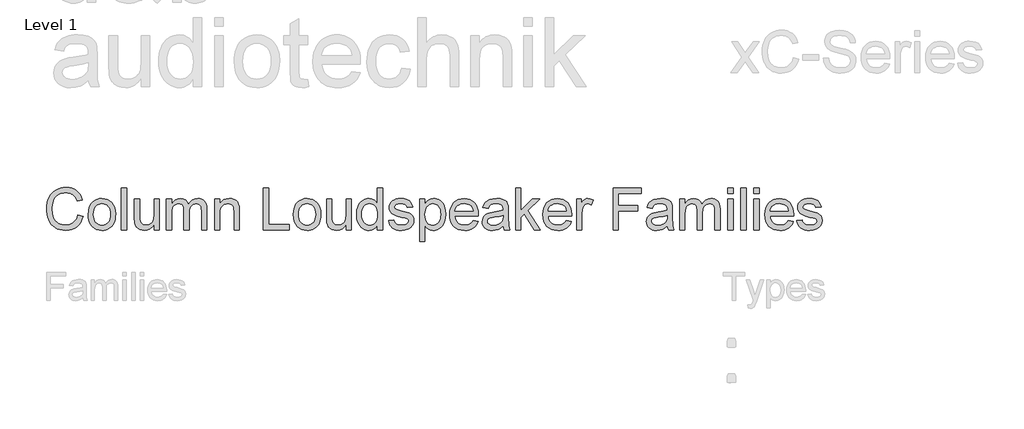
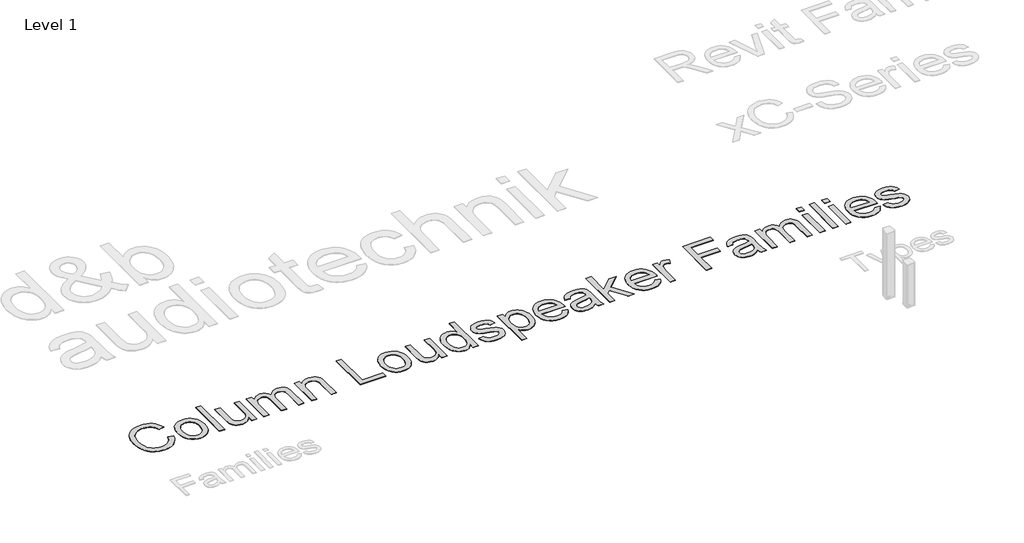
# One storey, part 6 of 8: 1 proxy.
"""IFC4 building model written with IfcOpenShell, lengths in millimetres."""

from ifc_helpers import new_model, si_unit, origin, origin_with_axes, place, context, project, spatial, polyline, outline, extrude, element, save

model = new_model("IFC4")

# Units and contexts
model_context = context("Model", 3, world=origin())
ifc_project = project(units=[si_unit("LENGTHUNIT", "METRE", prefix="MILLI")], contexts=[model_context])

# Site, building, storey
site = spatial("IfcSite", under=ifc_project)
building = spatial("IfcBuilding", under=site)
storey = spatial("IfcBuildingStorey", under=building, Name="Level 1", Elevation=0.0)

# Proxy
placement = place(None, origin())
element("IfcBuildingElementProxy", 1, Name="600mm Arial", ObjectType="600mm Arial", at=placement, inside=storey, context=model_context, shape_type="SweptSolid", body=[
    extrude(outline(polyline([(-20619.5693759, 18561.3054836), (-20545.723222, 18542.267022), (-20560.3356018, 18496.3430437), (-20579.7977413, 18456.2153393), (-20604.1096403, 18421.8839091), (-20633.271299, 18393.3487528), (-20666.6246643, 18370.916361), (-20703.5116836, 18354.893224), (-20743.9323567, 18345.2793417), (-20787.8866836, 18342.0747143), (-20832.9182341, 18344.4995941), (-20873.5417317, 18351.7742336), (-20909.7571764, 18363.8986326), (-20941.5645682, 18380.8727913), (-20969.4011067, 18402.4443057), (-20993.7039913, 18428.360772), (-21014.473222, 18458.6221903), (-21031.708799, 18493.2285605), (-21045.2439552, 18530.6834884), (-21054.911924, 18569.4905797), (-21060.7127052, 18609.6498345), (-21062.646299, 18651.1612528), (-21060.4603014, 18695.7015172), (-21053.9023086, 18737.3030797), (-21042.9723206, 18775.9659403), (-21027.6703374, 18811.690099), (-21008.3389071, 18843.885111), (-20985.3205778, 18871.9605316), (-20958.6153494, 18895.916361), (-20928.223222, 18915.752599), (-20895.176347, 18931.306986), (-20860.5068759, 18942.4172624), (-20824.2148086, 18949.0834283), (-20786.3001451, 18951.3054836), (-20744.0630658, 18948.4298826), (-20705.332597, 18939.8030797), (-20670.1087389, 18925.4250749), (-20638.3914913, 18905.2958682), (-20610.7036908, 18879.9473105), (-20587.568174, 18849.9112528), (-20568.9849408, 18815.1876951), (-20554.9539913, 18775.7766374), (-20628.8001451, 18758.1804836), (-20640.4287509, 18787.2204475), (-20654.4011067, 18812.032647), (-20670.7172124, 18832.6170821), (-20689.3770682, 18848.9737528), (-20710.488847, 18861.4361927), (-20734.160722, 18870.3379355), (-20760.3926932, 18875.6789812), (-20789.1847605, 18877.4593297), (-20822.3127653, 18875.4851711), (-20852.6102413, 18869.5626951), (-20880.0771884, 18859.6919018), (-20904.7136067, 18845.8727913), (-20926.2084985, 18828.7273586), (-20944.2508663, 18808.877599), (-20958.84071, 18786.3235124), (-20969.9780297, 18761.065099), (-20984.0946163, 18707.0146182), (-20988.8001451, 18651.3054836), (-20983.2292317, 18583.0843297), (-20976.2655898, 18552.4352913), (-20966.5164913, 18524.0939451), (-20953.8241836, 18498.6236927), (-20938.0309143, 18476.5879355), (-20919.1366836, 18457.9866735), (-20897.1414913, 18442.8199066), (-20873.1135466, 18431.0515773), (-20848.1210586, 18422.6456278), (-20822.1640273, 18417.6020581), (-20795.2424528, 18415.9208682), (-20763.137585, 18418.2105316), (-20733.6018278, 18425.079522), (-20706.6351812, 18436.5278393), (-20682.2376451, 18452.5554836), (-20660.9861427, 18473.0903393), (-20643.457597, 18498.0602913), (-20629.6520081, 18527.4653393), (-20619.5693759, 18561.3054836)])), origin_with_axes(), (0.0, 0.0, 1.0), 5.0),
    extrude(outline(polyline([(-20471.8770682, 18568.2285605), (-20467.8836788, 18624.4154595), (-20455.9035105, 18672.8319259), (-20435.9365634, 18713.4779595), (-20407.9828374, 18746.3535605), (-20379.8398086, 18767.3661807), (-20348.7761067, 18782.3751951), (-20314.7917317, 18791.3806038), (-20277.8866836, 18794.3824066), (-20237.1459985, 18790.7270581), (-20200.3085586, 18779.7610124), (-20167.3743639, 18761.4842696), (-20138.3434143, 18735.8968297), (-20114.6490033, 18703.8640773), (-20097.724424, 18666.251397), (-20087.5696764, 18623.0587889), (-20084.1847605, 18574.2862528), (-20085.6811547, 18534.7580076), (-20090.1703374, 18499.6828874), (-20097.6523086, 18469.0608922), (-20108.1270682, 18442.892022), (-20121.4639071, 18420.2883562), (-20137.5321163, 18400.361974), (-20156.3316956, 18383.1128754), (-20177.8626451, 18368.5410605), (-20201.2866235, 18356.9620341), (-20225.7652893, 18348.6913009), (-20251.2986427, 18343.728861), (-20277.8866836, 18342.0747143), (-20319.2223206, 18345.7165413), (-20356.4023086, 18356.642022), (-20389.4266475, 18374.8511566), (-20418.2953374, 18400.3439451), (-20441.7373446, 18432.6876951), (-20458.4816355, 18471.4497143), (-20468.52821, 18516.6300028), (-20471.8770682, 18568.2285605)]), holes=[polyline([(-20398.0309143, 18568.3727913), (-20395.8944961, 18532.5539812), (-20389.4852413, 18501.5398586), (-20378.8031499, 18475.3304235), (-20363.848222, 18453.9256759), (-20345.6571163, 18437.2985725), (-20325.2664913, 18425.4220701), (-20302.676347, 18418.2961687), (-20277.8866836, 18415.9208682), (-20253.223222, 18418.3096903), (-20230.723222, 18425.4761566), (-20210.3866836, 18437.4202672), (-20192.2136067, 18454.142022), (-20177.2586788, 18475.7586086), (-20166.5765874, 18502.3872143), (-20160.1673326, 18534.0278393), (-20158.0309143, 18570.6804836), (-20160.1808542, 18605.3634764), (-20166.630674, 18635.5663009), (-20177.3803735, 18661.2889571), (-20192.4299528, 18682.5314451), (-20210.6706379, 18699.1585485), (-20230.9936547, 18711.0350509), (-20253.3990033, 18718.1609523), (-20277.8866836, 18720.5362528), (-20302.676347, 18718.1699667), (-20325.2664913, 18711.0711086), (-20345.6571163, 18699.2396783), (-20363.848222, 18682.6756759), (-20378.8031499, 18661.3340292), (-20389.4852413, 18635.1696663), (-20395.8944961, 18604.1825869), (-20398.0309143, 18568.3727913)])]), origin_with_axes(), (0.0, 0.0, 1.0), 5.0),
    extrude(outline(polyline([(-20001.1078374, 18351.3054836), (-20001.1078374, 18942.0747143), (-19927.2616836, 18942.0747143), (-19927.2616836, 18351.3054836), (-20001.1078374, 18351.3054836)])), origin_with_axes(), (0.0, 0.0, 1.0), 5.0),
    extrude(outline(polyline([(-19539.5693759, 18351.3054836), (-19539.5693759, 18425.8727913), (-19566.2881259, 18389.2111326), (-19597.4059143, 18363.0242336), (-19632.9227413, 18347.3120941), (-19672.8386067, 18342.0747143), (-19708.8061547, 18345.752599), (-19742.285722, 18356.7862528), (-19770.3746643, 18373.3727913), (-19790.1703374, 18393.7093297), (-19803.4936547, 18418.408849), (-19812.1655297, 18448.0843297), (-19816.4924528, 18516.7381759), (-19816.4924528, 18785.1516374), (-19742.646299, 18785.1516374), (-19742.646299, 18551.4977913), (-19741.5285105, 18504.767022), (-19738.1751451, 18476.2093297), (-19727.411924, 18451.095147), (-19708.9684143, 18432.002599), (-19684.0705778, 18419.9413009), (-19653.9443759, 18415.9208682), (-19622.0874047, 18420.0314451), (-19592.285722, 18432.3631759), (-19567.7124047, 18451.7802432), (-19551.5405297, 18477.1468297), (-19542.5621643, 18511.8884163), (-19539.5693759, 18559.4304836), (-19539.5693759, 18785.1516374), (-19465.723222, 18785.1516374), (-19465.723222, 18351.3054836), (-19539.5693759, 18351.3054836)])), origin_with_axes(), (0.0, 0.0, 1.0), 5.0),
    extrude(outline(polyline([(-19364.1847605, 18351.3054836), (-19364.1847605, 18785.1516374), (-19290.3386067, 18785.1516374), (-19290.3386067, 18713.7574066), (-19268.1270682, 18746.5518778), (-19239.5693759, 18772.2429836), (-19205.6390874, 18788.8475509), (-19167.3097605, 18794.3824066), (-19126.240049, 18788.7393778), (-19108.7610826, 18781.6855917), (-19093.3193759, 18771.8102913), (-19068.7280297, 18744.7129355), (-19052.646299, 18708.565099), (-19025.7292317, 18746.1101711), (-18995.0261067, 18772.9280797), (-18960.536924, 18789.0188249), (-18922.2616836, 18794.3824066), (-18892.6988831, 18792.1513369), (-18866.7508663, 18785.4581278), (-18844.4176331, 18774.3027792), (-18825.6991836, 18758.6852913), (-18810.9020081, 18738.4253754), (-18800.332597, 18713.3427432), (-18793.9909504, 18683.4373946), (-18791.8770682, 18648.7093297), (-18791.8770682, 18351.3054836), (-18865.723222, 18351.3054836), (-18865.723222, 18616.9785605), (-18867.4359624, 18653.8114932), (-18872.5741836, 18678.6372143), (-18882.2015874, 18695.6384163), (-18897.3818759, 18708.9977913), (-18916.9071163, 18717.6516374), (-18939.5693759, 18720.5362528), (-18960.4963591, 18718.6882961), (-18979.5753855, 18713.1444259), (-18996.8064552, 18703.9046422), (-19012.1895682, 18690.9689451), (-19024.841311, 18673.9587288), (-19033.8782701, 18652.4953874), (-19039.3004456, 18626.5789211), (-19041.1078374, 18596.2093297), (-19041.1078374, 18351.3054836), (-19114.9539913, 18351.3054836), (-19114.9539913, 18625.1997143), (-19119.2268278, 18666.954522), (-19132.0453374, 18696.7381759), (-19141.9566956, 18707.1498345), (-19154.599424, 18714.5867336), (-19169.9735225, 18719.048873), (-19188.0789913, 18720.5362528), (-19216.5285105, 18716.5699066), (-19242.7424528, 18704.6708682), (-19264.3770682, 18685.127599), (-19279.0886067, 18658.2285605), (-19287.5261067, 18620.908849), (-19290.3386067, 18570.1035605), (-19290.3386067, 18351.3054836), (-19364.1847605, 18351.3054836)])), origin_with_axes(), (0.0, 0.0, 1.0), 5.0),
    extrude(outline(polyline([(-18681.1078374, 18351.3054836), (-18681.1078374, 18785.1516374), (-18607.2616836, 18785.1516374), (-18607.2616836, 18724.5747143), (-18581.6066355, 18755.1155797), (-18550.7953374, 18776.9304836), (-18514.8277893, 18790.0194259), (-18473.7039913, 18794.3824066), (-18437.3037509, 18790.8667816), (-18403.9684143, 18780.3199066), (-18376.1679336, 18764.0578874), (-18356.3722605, 18743.3968297), (-18342.9407701, 18718.3908201), (-18334.2328374, 18689.0939451), (-18330.3386067, 18617.6997143), (-18330.3386067, 18351.3054836), (-18404.1847605, 18351.3054836), (-18404.1847605, 18607.7477913), (-18406.3121643, 18645.9328874), (-18412.6943759, 18673.0843297), (-18424.4672124, 18692.5374547), (-18442.7664913, 18707.627599), (-18466.2220201, 18717.3090893), (-18493.4636067, 18720.5362528), (-18515.8869841, 18718.7243538), (-18536.7148086, 18713.2886566), (-18555.9470802, 18704.2291615), (-18573.583799, 18691.5458682), (-18588.3178735, 18673.7964691), (-18598.8422124, 18649.5386566), (-18605.1568158, 18618.7724307), (-18607.2616836, 18581.4977913), (-18607.2616836, 18351.3054836), (-18681.1078374, 18351.3054836)])), origin_with_axes(), (0.0, 0.0, 1.0), 5.0),
    extrude(outline(polyline([(-17988.8001451, 18351.3054836), (-17988.8001451, 18942.0747143), (-17914.9539913, 18942.0747143), (-17914.9539913, 18425.1516374), (-17619.5693759, 18425.1516374), (-17619.5693759, 18351.3054836), (-17988.8001451, 18351.3054836)])), origin_with_axes(), (0.0, 0.0, 1.0), 5.0),
    extrude(outline(polyline([(-17564.1847605, 18568.2285605), (-17560.1913711, 18624.4154595), (-17548.2112028, 18672.8319259), (-17528.2442557, 18713.4779595), (-17500.2905297, 18746.3535605), (-17472.1475009, 18767.3661807), (-17441.083799, 18782.3751951), (-17407.099424, 18791.3806038), (-17370.1943759, 18794.3824066), (-17329.4536908, 18790.7270581), (-17292.6162509, 18779.7610124), (-17259.6820562, 18761.4842696), (-17230.6511067, 18735.8968297), (-17206.9566956, 18703.8640773), (-17190.0321163, 18666.251397), (-17179.8773687, 18623.0587889), (-17176.4924528, 18574.2862528), (-17177.988847, 18534.7580076), (-17182.4780297, 18499.6828874), (-17189.9600009, 18469.0608922), (-17200.4347605, 18442.892022), (-17213.7715994, 18420.2883562), (-17229.8398086, 18400.361974), (-17248.6393879, 18383.1128754), (-17270.1703374, 18368.5410605), (-17293.5943158, 18356.9620341), (-17318.0729817, 18348.6913009), (-17343.606335, 18343.728861), (-17370.1943759, 18342.0747143), (-17411.5300129, 18345.7165413), (-17448.7100009, 18356.642022), (-17481.7343398, 18374.8511566), (-17510.6030297, 18400.3439451), (-17534.0450369, 18432.6876951), (-17550.7893278, 18471.4497143), (-17560.8359023, 18516.6300028), (-17564.1847605, 18568.2285605)]), holes=[polyline([(-17490.3386067, 18568.3727913), (-17488.2021884, 18532.5539812), (-17481.7929336, 18501.5398586), (-17471.1108422, 18475.3304235), (-17456.1559143, 18453.9256759), (-17437.9648086, 18437.2985725), (-17417.5741836, 18425.4220701), (-17394.9840393, 18418.2961687), (-17370.1943759, 18415.9208682), (-17345.5309143, 18418.3096903), (-17323.0309143, 18425.4761566), (-17302.6943759, 18437.4202672), (-17284.521299, 18454.142022), (-17269.5663711, 18475.7586086), (-17258.8842797, 18502.3872143), (-17252.4750249, 18534.0278393), (-17250.3386067, 18570.6804836), (-17252.4885466, 18605.3634764), (-17258.9383663, 18635.5663009), (-17269.6880658, 18661.2889571), (-17284.7376451, 18682.5314451), (-17302.9783302, 18699.1585485), (-17323.301347, 18711.0350509), (-17345.7066956, 18718.1609523), (-17370.1943759, 18720.5362528), (-17394.9840393, 18718.1699667), (-17417.5741836, 18711.0711086), (-17437.9648086, 18699.2396783), (-17456.1559143, 18682.6756759), (-17471.1108422, 18661.3340292), (-17481.7929336, 18635.1696663), (-17488.2021884, 18604.1825869), (-17490.3386067, 18568.3727913)])]), origin_with_axes(), (0.0, 0.0, 1.0), 5.0),
    extrude(outline(polyline([(-16816.4924528, 18351.3054836), (-16816.4924528, 18425.8727913), (-16843.2112028, 18389.2111326), (-16874.3289913, 18363.0242336), (-16909.8458182, 18347.3120941), (-16949.7616836, 18342.0747143), (-16985.7292317, 18345.752599), (-17019.208799, 18356.7862528), (-17047.2977413, 18373.3727913), (-17067.0934143, 18393.7093297), (-17080.4167317, 18418.408849), (-17089.0886067, 18448.0843297), (-17093.4155297, 18516.7381759), (-17093.4155297, 18785.1516374), (-17019.5693759, 18785.1516374), (-17019.5693759, 18551.4977913), (-17018.4515874, 18504.767022), (-17015.098222, 18476.2093297), (-17004.3350009, 18451.095147), (-16985.8914913, 18432.002599), (-16960.9936547, 18419.9413009), (-16930.8674528, 18415.9208682), (-16899.0104817, 18420.0314451), (-16869.208799, 18432.3631759), (-16844.6354817, 18451.7802432), (-16828.4636067, 18477.1468297), (-16819.4852413, 18511.8884163), (-16816.4924528, 18559.4304836), (-16816.4924528, 18785.1516374), (-16742.646299, 18785.1516374), (-16742.646299, 18351.3054836), (-16816.4924528, 18351.3054836)])), origin_with_axes(), (0.0, 0.0, 1.0), 5.0),
    extrude(outline(polyline([(-16373.4155297, 18351.3054836), (-16373.4155297, 18420.9689451), (-16395.5098807, 18386.4527191), (-16422.2737028, 18361.798272), (-16453.7069961, 18347.0056038), (-16489.8097605, 18342.0747143), (-16514.1847605, 18343.8595701), (-16537.5501451, 18349.2141374), (-16559.9059143, 18358.1384163), (-16581.2520682, 18370.6324066), (-16600.9215393, 18386.32201), (-16618.2472605, 18404.8331278), (-16633.2292317, 18426.16576), (-16645.8674528, 18450.3199066), (-16655.9005057, 18476.8358321), (-16663.066972, 18505.2538009), (-16668.8001451, 18567.7958682), (-16663.5176932, 18629.5626951), (-16647.6703374, 18685.3439451), (-16635.7893278, 18710.1967095), (-16621.2761067, 18731.9665413), (-16604.130674, 18750.6534403), (-16584.3530297, 18766.2574066), (-16562.6417917, 18778.5620941), (-16539.6955778, 18787.3511566), (-16515.5143879, 18792.6245941), (-16490.098222, 18794.3824066), (-16453.9684143, 18789.3523586), (-16422.021299, 18774.2622143), (-16394.941972, 18751.1312047), (-16373.4155297, 18721.9785605), (-16373.4155297, 18942.0747143), (-16299.5693759, 18942.0747143), (-16299.5693759, 18351.3054836), (-16373.4155297, 18351.3054836)]), holes=[polyline([(-16594.9539913, 18568.0843297), (-16592.8716595, 18532.2745341), (-16586.6246643, 18501.2874547), (-16576.2130057, 18475.1230917), (-16561.6366836, 18453.7814451), (-16544.2298326, 18437.2174427), (-16525.3265874, 18425.3860124), (-16504.926948, 18418.2871542), (-16483.0309143, 18415.9208682), (-16461.0312148, 18418.1789812), (-16440.7532701, 18424.9533201), (-16422.1970802, 18436.243885), (-16405.3626451, 18452.0506759), (-16391.3857821, 18472.4998946), (-16381.4023086, 18497.7177432), (-16375.4122244, 18527.7042216), (-16373.4155297, 18562.4593297), (-16375.4482821, 18600.5632961), (-16381.5465393, 18633.2405797), (-16391.7103014, 18660.4911807), (-16405.9395682, 18682.315099), (-16423.1435946, 18699.0368538), (-16442.2316355, 18710.9809643), (-16463.2036908, 18718.1474307), (-16486.0597605, 18720.5362528), (-16508.3884865, 18718.2420821), (-16528.7881259, 18711.3595701), (-16547.2586788, 18699.8887167), (-16563.8001451, 18683.829522), (-16577.4299528, 18662.8304235), (-16587.1655297, 18636.5398586), (-16593.0068759, 18604.9578273), (-16594.9539913, 18568.0843297)])]), origin_with_axes(), (0.0, 0.0, 1.0), 5.0),
    extrude(outline(polyline([(-16216.4924528, 18480.5362528), (-16142.646299, 18489.767022), (-16138.1841595, 18472.9280797), (-16130.9996643, 18458.1804836), (-16121.0928134, 18445.5242336), (-16108.4636067, 18434.9593297), (-16093.0759865, 18426.6300028), (-16074.8938951, 18420.6804836), (-16030.146299, 18415.9208682), (-15985.9395682, 18420.283849), (-15968.7580778, 18425.7375749), (-15954.8578374, 18433.3727913), (-15936.4684143, 18452.3391374), (-15930.3386067, 18474.3343297), (-15931.880073, 18484.3042816), (-15936.504472, 18493.1564451), (-15955.0020682, 18507.5074066), (-15982.6583182, 18516.8824066), (-16031.0116836, 18528.565099), (-16098.4035105, 18548.0542816), (-16142.2136067, 18564.6949066), (-16170.3566355, 18582.8499547), (-16190.7472605, 18606.8824066), (-16203.1330778, 18635.2598105), (-16207.2616836, 18666.4497143), (-16203.9443759, 18695.0614932), (-16193.9924528, 18721.4737528), (-16178.3073567, 18744.6408201), (-16157.7905297, 18763.517022), (-16137.3999047, 18775.3980316), (-16110.8434143, 18785.3679836), (-16080.1402893, 18792.1288009), (-16047.3097605, 18794.3824066), (-15999.2448567, 18790.7586086), (-15957.4539913, 18779.8872143), (-15923.848222, 18762.8319259), (-15900.3386067, 18740.6564451), (-15884.7616836, 18711.720147), (-15874.9539913, 18674.3824066), (-15948.8001451, 18665.1516374), (-15958.1210586, 18688.3908201), (-15976.5645682, 18705.8968297), (-16004.3109624, 18716.876397), (-16041.5405297, 18720.5362528), (-16083.9443759, 18717.0386566), (-16112.2136067, 18706.5458682), (-16128.115049, 18691.4016374), (-16133.4155297, 18673.9497143), (-16131.2160105, 18662.5915413), (-16124.6174528, 18652.4593297), (-16113.3313951, 18643.408849), (-16097.0693759, 18636.1612528), (-16033.4636067, 18620.440099), (-15925.0741836, 18585.6804836), (-15896.4443759, 18569.0578874), (-15874.7376451, 18546.3054836), (-15861.0537509, 18517.3511566), (-15856.4924528, 18482.1227913), (-15861.8470201, 18445.704522), (-15877.910722, 18411.4497143), (-15904.0705778, 18382.0446663), (-15939.7136067, 18360.1756759), (-15982.7664913, 18346.5999547), (-16031.1559143, 18342.0747143), (-16070.9005057, 18344.2562047), (-16105.615049, 18350.8006759), (-16135.2995442, 18361.7081278), (-16159.9539913, 18376.9785605), (-16180.0922124, 18396.5398586), (-16196.2280297, 18420.3199066), (-16208.3614432, 18448.3187047), (-16216.4924528, 18480.5362528)])), origin_with_axes(), (0.0, 0.0, 1.0), 5.0),
    extrude(outline(polyline([(-15773.4155297, 18185.1516374), (-15773.4155297, 18785.1516374), (-15699.5693759, 18785.1516374), (-15699.5693759, 18712.7477913), (-15675.4828374, 18748.4629355), (-15648.5116836, 18773.9737528), (-15617.0693759, 18789.2802432), (-15579.5693759, 18794.3824066), (-15553.8151692, 18792.5975509), (-15529.629472, 18787.2429836), (-15507.0122845, 18778.3187047), (-15485.9636067, 18765.8247143), (-15466.943174, 18750.0855316), (-15450.410722, 18731.4256759), (-15436.3662509, 18709.845147), (-15424.8097605, 18685.3439451), (-15409.3410105, 18630.9328874), (-15404.1847605, 18571.5458682), (-15410.0080778, 18508.3908201), (-15417.2872244, 18479.3147985), (-15427.4780297, 18451.9064451), (-15440.4407701, 18426.8824066), (-15456.035722, 18404.9593297), (-15474.2628855, 18386.1372143), (-15495.1222605, 18370.4160605), (-15517.59071, 18358.0167216), (-15540.645097, 18349.1600509), (-15564.2854216, 18343.8460485), (-15588.5116836, 18342.0747143), (-15622.4600009, 18346.8163009), (-15652.7664913, 18361.0410605), (-15678.7100009, 18382.5134163), (-15699.5693759, 18408.9977913), (-15699.5693759, 18185.1516374), (-15773.4155297, 18185.1516374)]), holes=[polyline([(-15699.5693759, 18564.767022), (-15697.5726812, 18529.1780797), (-15691.582597, 18498.565099), (-15681.5991235, 18472.9280797), (-15667.6222605, 18452.267022), (-15650.7968398, 18436.3655797), (-15632.2676932, 18425.0074066), (-15612.0348206, 18418.1925028), (-15590.098222, 18415.9208682), (-15567.8461187, 18418.2736326), (-15547.2436547, 18425.3319259), (-15528.2908302, 18437.095748), (-15510.9876451, 18453.565099), (-15496.5690754, 18474.9743538), (-15486.270097, 18501.5578874), (-15480.09071, 18533.3156999), (-15478.0309143, 18570.2477913), (-15480.0411307, 18605.5302432), (-15486.0717797, 18636.0891374), (-15496.1228615, 18661.924474), (-15510.1943759, 18683.0362528), (-15527.0603615, 18699.4425028), (-15545.4948567, 18711.1612528), (-15565.4978615, 18718.1925028), (-15587.0693759, 18720.5362528), (-15608.5732821, 18718.0437648), (-15628.8061547, 18710.5663009), (-15647.7679937, 18698.103861), (-15665.458799, 18680.6564451), (-15680.3821764, 18658.4584283), (-15691.0417317, 18631.7441855), (-15697.4374648, 18600.5137167), (-15699.5693759, 18564.767022)])]), origin_with_axes(), (0.0, 0.0, 1.0), 5.0),
    extrude(outline(polyline([(-15017.3578374, 18480.5362528), (-14944.9539913, 18471.3054836), (-14956.0552533, 18442.3060845), (-14971.0417317, 18416.7501951), (-14989.9134264, 18394.6378153), (-15012.6703374, 18375.9689451), (-15039.0780898, 18361.1402191), (-15068.9023086, 18350.548272), (-15102.1429937, 18344.1931038), (-15138.8001451, 18342.0747143), (-15184.6204576, 18345.7300629), (-15225.4467797, 18356.6961086), (-15261.2791115, 18374.9728514), (-15292.1174528, 18400.5602913), (-15316.9161307, 18432.7462889), (-15334.629472, 18470.8187047), (-15345.2574768, 18514.7775389), (-15348.8001451, 18564.6227913), (-15345.2214192, 18616.158248), (-15334.4852413, 18661.5819259), (-15316.5916115, 18700.8938249), (-15291.5405297, 18734.0939451), (-15260.7833182, 18760.470147), (-15225.771299, 18779.3102913), (-15186.504472, 18790.6143778), (-15142.9828374, 18794.3824066), (-15100.8629456, 18790.6233922), (-15062.7725009, 18779.346349), (-15028.7115033, 18760.5512768), (-14998.6799528, 18734.2381759), (-14974.1652292, 18701.1101711), (-14956.6547124, 18661.8703874), (-14946.1484023, 18616.5188249), (-14942.646299, 18565.0554836), (-14943.0789913, 18545.1516374), (-15274.9539913, 18545.1516374), (-15270.6766475, 18515.6834884), (-15262.1715393, 18489.8751951), (-15249.4386667, 18467.7267576), (-15232.4780297, 18449.2381759), (-15212.2271283, 18434.6618538), (-15189.6234624, 18424.2501951), (-15164.6670321, 18418.0031999), (-15137.3578374, 18415.9208682), (-15098.0549528, 18419.7790413), (-15064.9539913, 18431.3535605), (-15038.0549528, 18451.3655797), (-15017.3578374, 18480.5362528)]), holes=[polyline([(-15274.9539913, 18618.9977913), (-15016.4924528, 18618.9977913), (-15026.4804336, 18658.0122143), (-15035.0711788, 18673.3547624), (-15046.0597605, 18685.9208682), (-15066.1979817, 18701.065099), (-15089.1126451, 18711.8824066), (-15114.8037509, 18718.3727913), (-15143.271299, 18720.5362528), (-15169.2373446, 18718.8099908), (-15193.0489432, 18713.6312047), (-15214.7060946, 18704.9998946), (-15234.208799, 18692.9160605), (-15250.5744841, 18677.9385966), (-15262.8205778, 18660.626397), (-15270.9470802, 18640.9794619), (-15274.9539913, 18618.9977913)])]), origin_with_axes(), (0.0, 0.0, 1.0), 5.0),
    extrude(outline(polyline([(-14591.8770682, 18406.690099), (-14627.1595201, 18376.4376951), (-14663.4876451, 18356.642022), (-14701.6907701, 18345.7165413), (-14742.598222, 18342.0747143), (-14775.4783302, 18344.2652191), (-14804.3109624, 18350.8367336), (-14829.0961187, 18361.7892576), (-14849.833799, 18377.1227913), (-14866.2084985, 18395.8637768), (-14877.9047124, 18417.0386566), (-14884.9224408, 18440.6474307), (-14887.2616836, 18466.690099), (-14883.7280297, 18497.3030797), (-14873.1270682, 18525.1035605), (-14856.7749047, 18548.9016374), (-14835.9876451, 18567.5074066), (-14811.5585586, 18581.5699066), (-14784.2809143, 18591.7381759), (-14720.3866836, 18602.8439451), (-14644.8818759, 18614.5266374), (-14592.3097605, 18628.2285605), (-14591.8770682, 18644.6708682), (-14596.9612028, 18677.627599), (-14603.3163711, 18689.8331278), (-14612.2136067, 18699.190099), (-14627.5922124, 18708.5290413), (-14646.3241836, 18715.1997143), (-14693.848222, 18720.5362528), (-14737.8386067, 18716.9845701), (-14768.5597605, 18706.329522), (-14789.5092797, 18686.6239932), (-14804.1847605, 18655.9208682), (-14878.0309143, 18665.1516374), (-14865.2124047, 18705.5362528), (-14846.083799, 18737.267022), (-14818.8602413, 18761.533849), (-14781.7568759, 18779.5266374), (-14736.3782701, 18790.6684643), (-14684.3289913, 18794.3824066), (-14634.4071163, 18791.1011566), (-14594.833799, 18781.2574066), (-14564.9960586, 18766.455724), (-14544.2809143, 18748.3006759), (-14530.5429336, 18725.8547624), (-14521.6366836, 18698.1804836), (-14518.0309143, 18633.565099), (-14518.0309143, 18541.690099), (-14514.2809143, 18413.3968297), (-14508.7280297, 18381.6840893), (-14499.5693759, 18351.3054836), (-14573.4155297, 18351.3054836), (-14585.2424528, 18376.9785605), (-14591.8770682, 18406.690099)]), holes=[polyline([(-14591.8770682, 18554.3824066), (-14641.4924528, 18542.0867336), (-14711.0116836, 18531.7381759), (-14774.5453374, 18519.767022), (-14791.0777893, 18511.5819259), (-14803.3193759, 18500.2958682), (-14810.8914913, 18486.7742336), (-14813.4155297, 18471.8824066), (-14807.9167317, 18449.923272), (-14791.4203374, 18431.9304836), (-14764.286924, 18419.923272), (-14726.8770682, 18415.9208682), (-14687.2136067, 18420.3379355), (-14652.1655297, 18433.5891374), (-14623.7520682, 18453.1143778), (-14603.9924528, 18476.3535605), (-14595.2304336, 18500.2958682), (-14592.3097605, 18533.4689451), (-14591.8770682, 18554.3824066)])]), origin_with_axes(), (0.0, 0.0, 1.0), 5.0),
    extrude(outline(polyline([(-14416.4924528, 18351.3054836), (-14416.4924528, 18942.0747143), (-14342.646299, 18942.0747143), (-14342.646299, 18624.6227913), (-14177.0693759, 18785.1516374), (-14074.9539913, 18785.1516374), (-14242.5501451, 18622.6035605), (-14065.723222, 18351.3054836), (-14151.973222, 18351.3054836), (-14295.4828374, 18571.2574066), (-14342.646299, 18525.5362528), (-14342.646299, 18351.3054836), (-14416.4924528, 18351.3054836)])), origin_with_axes(), (0.0, 0.0, 1.0), 5.0),
    extrude(outline(polyline([(-13697.3578374, 18480.5362528), (-13624.9539913, 18471.3054836), (-13636.0552533, 18442.3060845), (-13651.0417317, 18416.7501951), (-13669.9134264, 18394.6378153), (-13692.6703374, 18375.9689451), (-13719.0780898, 18361.1402191), (-13748.9023086, 18350.548272), (-13782.1429937, 18344.1931038), (-13818.8001451, 18342.0747143), (-13864.6204576, 18345.7300629), (-13905.4467797, 18356.6961086), (-13941.2791115, 18374.9728514), (-13972.1174528, 18400.5602913), (-13996.9161307, 18432.7462889), (-14014.629472, 18470.8187047), (-14025.2574768, 18514.7775389), (-14028.8001451, 18564.6227913), (-14025.2214192, 18616.158248), (-14014.4852413, 18661.5819259), (-13996.5916115, 18700.8938249), (-13971.5405297, 18734.0939451), (-13940.7833182, 18760.470147), (-13905.771299, 18779.3102913), (-13866.504472, 18790.6143778), (-13822.9828374, 18794.3824066), (-13780.8629456, 18790.6233922), (-13742.7725009, 18779.346349), (-13708.7115033, 18760.5512768), (-13678.6799528, 18734.2381759), (-13654.1652292, 18701.1101711), (-13636.6547124, 18661.8703874), (-13626.1484023, 18616.5188249), (-13622.646299, 18565.0554836), (-13623.0789913, 18545.1516374), (-13954.9539913, 18545.1516374), (-13950.6766475, 18515.6834884), (-13942.1715393, 18489.8751951), (-13929.4386667, 18467.7267576), (-13912.4780297, 18449.2381759), (-13892.2271283, 18434.6618538), (-13869.6234624, 18424.2501951), (-13844.6670321, 18418.0031999), (-13817.3578374, 18415.9208682), (-13778.0549528, 18419.7790413), (-13744.9539913, 18431.3535605), (-13718.0549528, 18451.3655797), (-13697.3578374, 18480.5362528)]), holes=[polyline([(-13954.9539913, 18618.9977913), (-13696.4924528, 18618.9977913), (-13706.4804336, 18658.0122143), (-13715.0711788, 18673.3547624), (-13726.0597605, 18685.9208682), (-13746.1979817, 18701.065099), (-13769.1126451, 18711.8824066), (-13794.8037509, 18718.3727913), (-13823.271299, 18720.5362528), (-13849.2373446, 18718.8099908), (-13873.0489432, 18713.6312047), (-13894.7060946, 18704.9998946), (-13914.208799, 18692.9160605), (-13930.5744841, 18677.9385966), (-13942.8205778, 18660.626397), (-13950.9470802, 18640.9794619), (-13954.9539913, 18618.9977913)])]), origin_with_axes(), (0.0, 0.0, 1.0), 5.0),
    extrude(outline(polyline([(-13548.8001451, 18351.3054836), (-13548.8001451, 18785.1516374), (-13484.1847605, 18785.1516374), (-13484.1847605, 18720.9689451), (-13460.3145682, 18758.1804836), (-13438.3193759, 18780.1035605), (-13416.2520682, 18790.8126951), (-13392.1655297, 18794.3824066), (-13355.3866836, 18788.6852913), (-13318.0309143, 18771.5939451), (-13342.6943759, 18705.392022), (-13368.6559143, 18716.7501951), (-13394.6174528, 18720.5362528), (-13416.6667317, 18716.8944259), (-13436.3722605, 18705.9689451), (-13452.2917317, 18688.5891374), (-13462.9828374, 18665.5843297), (-13471.9612028, 18624.3343297), (-13474.9539913, 18579.3343297), (-13474.9539913, 18351.3054836), (-13548.8001451, 18351.3054836)])), origin_with_axes(), (0.0, 0.0, 1.0), 5.0),
    extrude(outline(polyline([(-13031.8770682, 18351.3054836), (-13031.8770682, 18942.0747143), (-12634.9539913, 18942.0747143), (-12634.9539913, 18868.2285605), (-12958.0309143, 18868.2285605), (-12958.0309143, 18692.8439451), (-12681.1078374, 18692.8439451), (-12681.1078374, 18618.9977913), (-12958.0309143, 18618.9977913), (-12958.0309143, 18351.3054836), (-13031.8770682, 18351.3054836)])), origin_with_axes(), (0.0, 0.0, 1.0), 5.0),
    extrude(outline(polyline([(-12265.723222, 18406.690099), (-12301.005674, 18376.4376951), (-12337.333799, 18356.642022), (-12375.536924, 18345.7165413), (-12416.4443759, 18342.0747143), (-12449.3244841, 18344.2652191), (-12478.1571163, 18350.8367336), (-12502.9422725, 18361.7892576), (-12523.6799528, 18377.1227913), (-12540.0546523, 18395.8637768), (-12551.7508663, 18417.0386566), (-12558.7685946, 18440.6474307), (-12561.1078374, 18466.690099), (-12557.5741836, 18497.3030797), (-12546.973222, 18525.1035605), (-12530.6210586, 18548.9016374), (-12509.833799, 18567.5074066), (-12485.4047124, 18581.5699066), (-12458.1270682, 18591.7381759), (-12394.2328374, 18602.8439451), (-12318.7280297, 18614.5266374), (-12266.1559143, 18628.2285605), (-12265.723222, 18644.6708682), (-12270.8073567, 18677.627599), (-12277.1625249, 18689.8331278), (-12286.0597605, 18699.190099), (-12301.4383663, 18708.5290413), (-12320.1703374, 18715.1997143), (-12367.6943759, 18720.5362528), (-12411.6847605, 18716.9845701), (-12442.4059143, 18706.329522), (-12463.3554336, 18686.6239932), (-12478.0309143, 18655.9208682), (-12551.8770682, 18665.1516374), (-12539.0585586, 18705.5362528), (-12519.9299528, 18737.267022), (-12492.7063951, 18761.533849), (-12455.6030297, 18779.5266374), (-12410.224424, 18790.6684643), (-12358.1751451, 18794.3824066), (-12308.2532701, 18791.1011566), (-12268.6799528, 18781.2574066), (-12238.8422124, 18766.455724), (-12218.1270682, 18748.3006759), (-12204.3890874, 18725.8547624), (-12195.4828374, 18698.1804836), (-12191.8770682, 18633.565099), (-12191.8770682, 18541.690099), (-12188.1270682, 18413.3968297), (-12182.5741836, 18381.6840893), (-12173.4155297, 18351.3054836), (-12247.2616836, 18351.3054836), (-12259.0886067, 18376.9785605), (-12265.723222, 18406.690099)]), holes=[polyline([(-12265.723222, 18554.3824066), (-12315.3386067, 18542.0867336), (-12384.8578374, 18531.7381759), (-12448.3914913, 18519.767022), (-12464.9239432, 18511.5819259), (-12477.1655297, 18500.2958682), (-12484.7376451, 18486.7742336), (-12487.2616836, 18471.8824066), (-12481.7628855, 18449.923272), (-12465.2664913, 18431.9304836), (-12438.1330778, 18419.923272), (-12400.723222, 18415.9208682), (-12361.0597605, 18420.3379355), (-12326.0116836, 18433.5891374), (-12297.598222, 18453.1143778), (-12277.8386067, 18476.3535605), (-12269.0765874, 18500.2958682), (-12266.1559143, 18533.4689451), (-12265.723222, 18554.3824066)])]), origin_with_axes(), (0.0, 0.0, 1.0), 5.0),
    extrude(outline(polyline([(-12090.3386067, 18351.3054836), (-12090.3386067, 18785.1516374), (-12016.4924528, 18785.1516374), (-12016.4924528, 18713.7574066), (-11994.2809143, 18746.5518778), (-11965.723222, 18772.2429836), (-11931.7929336, 18788.8475509), (-11893.4636067, 18794.3824066), (-11852.3938951, 18788.7393778), (-11834.9149288, 18781.6855917), (-11819.473222, 18771.8102913), (-11794.8818759, 18744.7129355), (-11778.8001451, 18708.565099), (-11751.8830778, 18746.1101711), (-11721.1799528, 18772.9280797), (-11686.6907701, 18789.0188249), (-11648.4155297, 18794.3824066), (-11618.8527292, 18792.1513369), (-11592.9047124, 18785.4581278), (-11570.5714792, 18774.3027792), (-11551.8530297, 18758.6852913), (-11537.0558542, 18738.4253754), (-11526.4864432, 18713.3427432), (-11520.1447966, 18683.4373946), (-11518.0309143, 18648.7093297), (-11518.0309143, 18351.3054836), (-11591.8770682, 18351.3054836), (-11591.8770682, 18616.9785605), (-11593.5898086, 18653.8114932), (-11598.7280297, 18678.6372143), (-11608.3554336, 18695.6384163), (-11623.535722, 18708.9977913), (-11643.0609624, 18717.6516374), (-11665.723222, 18720.5362528), (-11686.6502052, 18718.6882961), (-11705.7292317, 18713.1444259), (-11722.9603014, 18703.9046422), (-11738.3434143, 18690.9689451), (-11750.9951571, 18673.9587288), (-11760.0321163, 18652.4953874), (-11765.4542917, 18626.5789211), (-11767.2616836, 18596.2093297), (-11767.2616836, 18351.3054836), (-11841.1078374, 18351.3054836), (-11841.1078374, 18625.1997143), (-11845.380674, 18666.954522), (-11858.1991836, 18696.7381759), (-11868.1105417, 18707.1498345), (-11880.7532701, 18714.5867336), (-11896.1273687, 18719.048873), (-11914.2328374, 18720.5362528), (-11942.6823567, 18716.5699066), (-11968.896299, 18704.6708682), (-11990.5309143, 18685.127599), (-12005.2424528, 18658.2285605), (-12013.6799528, 18620.908849), (-12016.4924528, 18570.1035605), (-12016.4924528, 18351.3054836), (-12090.3386067, 18351.3054836)])), origin_with_axes(), (0.0, 0.0, 1.0), 5.0),
    extrude(outline(polyline([(-11407.2616836, 18351.3054836), (-11407.2616836, 18785.1516374), (-11333.4155297, 18785.1516374), (-11333.4155297, 18351.3054836), (-11407.2616836, 18351.3054836)])), origin_with_axes(), (0.0, 0.0, 1.0), 5.0),
    extrude(outline(polyline([(-11407.2616836, 18868.2285605), (-11407.2616836, 18942.0747143), (-11333.4155297, 18942.0747143), (-11333.4155297, 18868.2285605), (-11407.2616836, 18868.2285605)])), origin_with_axes(), (0.0, 0.0, 1.0), 5.0),
    extrude(outline(polyline([(-11222.646299, 18351.3054836), (-11222.646299, 18942.0747143), (-11148.8001451, 18942.0747143), (-11148.8001451, 18351.3054836), (-11222.646299, 18351.3054836)])), origin_with_axes(), (0.0, 0.0, 1.0), 5.0),
    extrude(outline(polyline([(-11038.0309143, 18868.2285605), (-11038.0309143, 18942.0747143), (-10964.1847605, 18942.0747143), (-10964.1847605, 18868.2285605), (-11038.0309143, 18868.2285605)])), origin_with_axes(), (0.0, 0.0, 1.0), 5.0),
    extrude(outline(polyline([(-11038.0309143, 18351.3054836), (-11038.0309143, 18785.1516374), (-10964.1847605, 18785.1516374), (-10964.1847605, 18351.3054836), (-11038.0309143, 18351.3054836)])), origin_with_axes(), (0.0, 0.0, 1.0), 5.0),
    extrude(outline(polyline([(-10549.6655297, 18480.5362528), (-10477.2616836, 18471.3054836), (-10488.3629456, 18442.3060845), (-10503.349424, 18416.7501951), (-10522.2211187, 18394.6378153), (-10544.9780297, 18375.9689451), (-10571.3857821, 18361.1402191), (-10601.2100009, 18350.548272), (-10634.450686, 18344.1931038), (-10671.1078374, 18342.0747143), (-10716.9281499, 18345.7300629), (-10757.754472, 18356.6961086), (-10793.5868038, 18374.9728514), (-10824.4251451, 18400.5602913), (-10849.223823, 18432.7462889), (-10866.9371643, 18470.8187047), (-10877.5651692, 18514.7775389), (-10881.1078374, 18564.6227913), (-10877.5291115, 18616.158248), (-10866.7929336, 18661.5819259), (-10848.8993038, 18700.8938249), (-10823.848222, 18734.0939451), (-10793.0910105, 18760.470147), (-10758.0789913, 18779.3102913), (-10718.8121643, 18790.6143778), (-10675.2905297, 18794.3824066), (-10633.1706379, 18790.6233922), (-10595.0801932, 18779.346349), (-10561.0191956, 18760.5512768), (-10530.9876451, 18734.2381759), (-10506.4729216, 18701.1101711), (-10488.9624047, 18661.8703874), (-10478.4560946, 18616.5188249), (-10474.9539913, 18565.0554836), (-10475.3866836, 18545.1516374), (-10807.2616836, 18545.1516374), (-10802.9843398, 18515.6834884), (-10794.4792317, 18489.8751951), (-10781.7463591, 18467.7267576), (-10764.785722, 18449.2381759), (-10744.5348206, 18434.6618538), (-10721.9311547, 18424.2501951), (-10696.9747244, 18418.0031999), (-10669.6655297, 18415.9208682), (-10630.3626451, 18419.7790413), (-10597.2616836, 18431.3535605), (-10570.3626451, 18451.3655797), (-10549.6655297, 18480.5362528)]), holes=[polyline([(-10807.2616836, 18618.9977913), (-10548.8001451, 18618.9977913), (-10558.7881259, 18658.0122143), (-10567.3788711, 18673.3547624), (-10578.3674528, 18685.9208682), (-10598.505674, 18701.065099), (-10621.4203374, 18711.8824066), (-10647.1114432, 18718.3727913), (-10675.5789913, 18720.5362528), (-10701.5450369, 18718.8099908), (-10725.3566355, 18713.6312047), (-10747.0137869, 18704.9998946), (-10766.5164913, 18692.9160605), (-10782.8821764, 18677.9385966), (-10795.1282701, 18660.626397), (-10803.2547725, 18640.9794619), (-10807.2616836, 18618.9977913)])]), origin_with_axes(), (0.0, 0.0, 1.0), 5.0),
    extrude(outline(polyline([(-10428.8001451, 18480.5362528), (-10354.9539913, 18489.767022), (-10350.4918518, 18472.9280797), (-10343.3073567, 18458.1804836), (-10333.4005057, 18445.5242336), (-10320.771299, 18434.9593297), (-10305.3836788, 18426.6300028), (-10287.2015874, 18420.6804836), (-10242.4539913, 18415.9208682), (-10198.2472605, 18420.283849), (-10181.0657701, 18425.7375749), (-10167.1655297, 18433.3727913), (-10148.7761067, 18452.3391374), (-10142.646299, 18474.3343297), (-10144.1877653, 18484.3042816), (-10148.8121643, 18493.1564451), (-10167.3097605, 18507.5074066), (-10194.9660105, 18516.8824066), (-10243.3193759, 18528.565099), (-10310.7112028, 18548.0542816), (-10354.521299, 18564.6949066), (-10382.6643278, 18582.8499547), (-10403.0549528, 18606.8824066), (-10415.4407701, 18635.2598105), (-10419.5693759, 18666.4497143), (-10416.2520682, 18695.0614932), (-10406.3001451, 18721.4737528), (-10390.615049, 18744.6408201), (-10370.098222, 18763.517022), (-10349.707597, 18775.3980316), (-10323.1511067, 18785.3679836), (-10292.4479817, 18792.1288009), (-10259.6174528, 18794.3824066), (-10211.552549, 18790.7586086), (-10169.7616836, 18779.8872143), (-10136.1559143, 18762.8319259), (-10112.646299, 18740.6564451), (-10097.0693759, 18711.720147), (-10087.2616836, 18674.3824066), (-10161.1078374, 18665.1516374), (-10170.4287509, 18688.3908201), (-10188.8722605, 18705.8968297), (-10216.6186547, 18716.876397), (-10253.848222, 18720.5362528), (-10296.2520682, 18717.0386566), (-10324.521299, 18706.5458682), (-10340.4227413, 18691.4016374), (-10345.723222, 18673.9497143), (-10343.5237028, 18662.5915413), (-10336.9251451, 18652.4593297), (-10325.6390874, 18643.408849), (-10309.3770682, 18636.1612528), (-10245.771299, 18620.440099), (-10137.3818759, 18585.6804836), (-10108.7520682, 18569.0578874), (-10087.0453374, 18546.3054836), (-10073.3614432, 18517.3511566), (-10068.8001451, 18482.1227913), (-10074.1547124, 18445.704522), (-10090.2184143, 18411.4497143), (-10116.3782701, 18382.0446663), (-10152.021299, 18360.1756759), (-10195.0741836, 18346.5999547), (-10243.4636067, 18342.0747143), (-10283.208198, 18344.2562047), (-10317.9227413, 18350.8006759), (-10347.6072365, 18361.7081278), (-10372.2616836, 18376.9785605), (-10392.3999047, 18396.5398586), (-10408.535722, 18420.3199066), (-10420.6691355, 18448.3187047), (-10428.8001451, 18480.5362528)])), origin_with_axes(), (0.0, 0.0, 1.0), 5.0),
])

save(model, "model.ifc")
